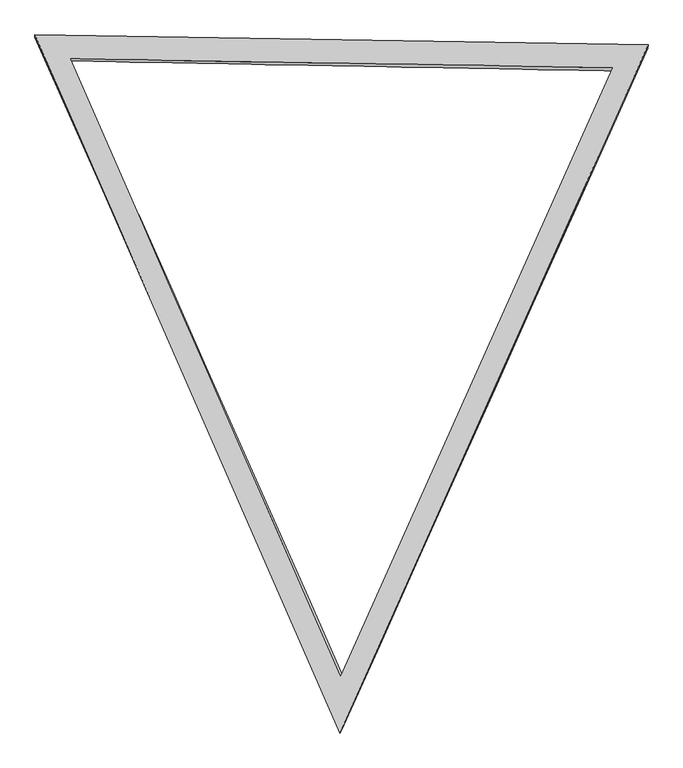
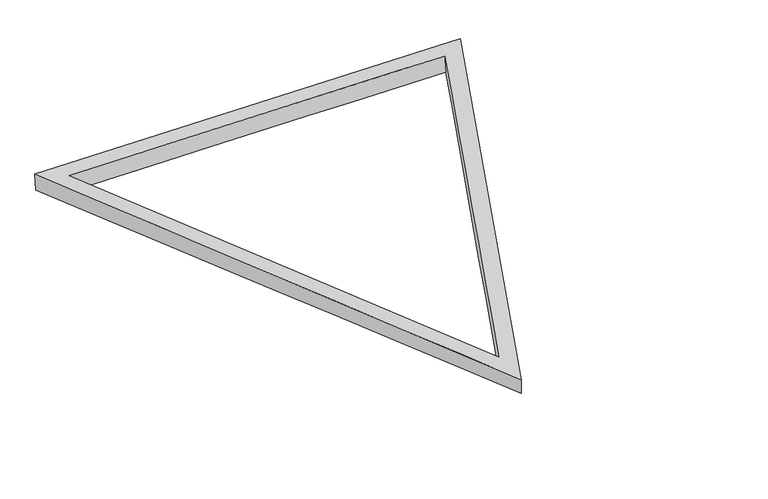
"""IFC4 building model written with IfcOpenShell, lengths in millimetres: plate geometry."""

from ifc_helpers import new_model, si_unit, frame, origin, place, context, project, spatial, source, transform, mapped, element, save
from ifc_brep_helpers import plane_surface, spline_surface, advanced_brep


def plate_b47bc057(model_context):
    return source(origin(), model_context, "Body", "AdvancedBrep", [
        advanced_brep(
        [(3735.5472933, 6918.3942456, 0.0), (3734.145295, 6937.4292786, 202.2835978), (6085.956342, 1559.8732972, 201.4395016), (6097.4929298, 1580.6732019, 0.0), (8460.181337, 6859.7417906, 201.4321368), (8459.4385663, 6833.1965612, 0.0), (6096.0, 1081.8892504, 0.0), (8771.0998031, 7030.8086444, 0.0), (8771.5875123, 7057.8502874, 201.3920348), (6083.7232328, 1057.8598739, 201.4003725), (3420.9001969, 7127.3021052, 0.0), (3421.2338232, 7145.8004288, 202.3559752)],
        [
            (0, 1),
            (1, 2),
            (2, 3),
            (3, 0),
            (2, 4),
            (4, 5),
            (5, 3),
            (0, 5),
            (4, 1),
            (6, 7),
            (7, 8),
            (8, 9),
            (9, 6),
            (7, 10),
            (10, 11),
            (11, 8),
            (9, 11),
            (10, 6),
        ],
        [
            spline_surface(1, 1, [[(3735.5472933, 6918.3942456, 0.0), (6097.4929298, 1580.6732019, 0.0)], [(3734.145295, 6937.4292786, 202.2835978), (6085.956342, 1559.8732972, 201.4395016)]], [2, 2], [2, 2], [0.0, 1.0], [0.0, 1.0]),
            spline_surface(1, 1, [[(6097.4929298, 1580.6732019, 0.0), (8459.4385663, 6833.1965612, 0.0)], [(6085.956342, 1559.8732972, 201.4395016), (8460.181337, 6859.7417906, 201.4321368)]], [2, 2], [2, 2], [0.0, 1.0], [0.0, 1.0]),
            spline_surface(1, 1, [[(8459.4385663, 6833.1965612, 0.0), (3735.5472933, 6918.3942456, 0.0)], [(8460.181337, 6859.7417906, 201.4321368), (3734.145295, 6937.4292786, 202.2835978)]], [2, 2], [2, 2], [0.0, 1.0], [0.0, 1.0]),
            spline_surface(1, 1, [[(6096.0, 1081.8892504, 0.0), (6083.7232328, 1057.8598739, 201.4003725)], [(8771.0998031, 7030.8086444, 0.0), (8771.5875123, 7057.8502874, 201.3920348)]], [2, 2], [2, 2], [0.0, 1.0], [0.0, 1.0]),
            spline_surface(1, 1, [[(8771.0998031, 7030.8086444, 0.0), (8771.5875123, 7057.8502874, 201.3920348)], [(3420.9001969, 7127.3021052, 0.0), (3421.2338232, 7145.8004288, 202.3559752)]], [2, 2], [2, 2], [0.0, 1.0], [0.0, 1.0]),
            spline_surface(1, 1, [[(3420.9001969, 7127.3021052, 0.0), (3421.2338232, 7145.8004288, 202.3559752)], [(6096.0, 1081.8892504, 0.0), (6083.7232328, 1057.8598739, 201.4003725)]], [2, 2], [2, 2], [0.0, 1.0], [0.0, 1.0]),
            plane_surface(frame((6092.1815228, 5087.1701967, 201.7161275), z_axis=(0.00017886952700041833, -7.87400085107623e-05, 0.9999999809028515), x_axis=(0.4006944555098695, -0.9162117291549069, -0.00014381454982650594))),
            plane_surface(frame((6096.0, 5080.0, 0.0), z_axis=(0.0, 0.0, -1.0), x_axis=(-0.4046536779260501, 0.9144700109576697, 0.0))),
        ],
        [
            (0, [[1, 2, 3, 4]]),
            (1, [[-3, 5, 6, 7]]),
            (2, [[-1, 8, -6, 9]]),
            (3, [[10, 11, 12, 13]]),
            (4, [[-11, 14, 15, 16]]),
            (5, [[-13, 17, -15, 18]]),
            (6, [[-12, -16, -17], [-2, -9, -5]]),
            (7, [[-10, -18, -14], [-4, -7, -8]]),
        ],
    ),
    ])


if __name__ == "__main__":
    model = new_model("IFC4")
    model_context = context("Model", 3, world=origin())
    ifc_project = project(units=[si_unit("LENGTHUNIT", "METRE", prefix="MILLI")], contexts=[model_context])
    site = spatial("IfcSite", under=ifc_project)
    building = spatial("IfcBuilding", under=site)
    placement = place(None, origin())
    plate_shape = plate_b47bc057(model_context)
    element("IfcPlate", 1, ObjectType="tn_cpanel_patbase_triangle_flat_seamless_frame_02_cylinder : tn_triangle_seamless_frame_t8\"xh8\"", at=placement, inside=building, context=model_context, shape_type="MappedRepresentation", body=[
        mapped(plate_shape, transform((0.0, 0.0, 0.0), x_axis=(1.0, 0.0, 0.0), y_axis=(0.0, 1.0, 0.0), z_axis=(0.0, 0.0, 1.0))),
    ])
    save(model, "model.ifc")
